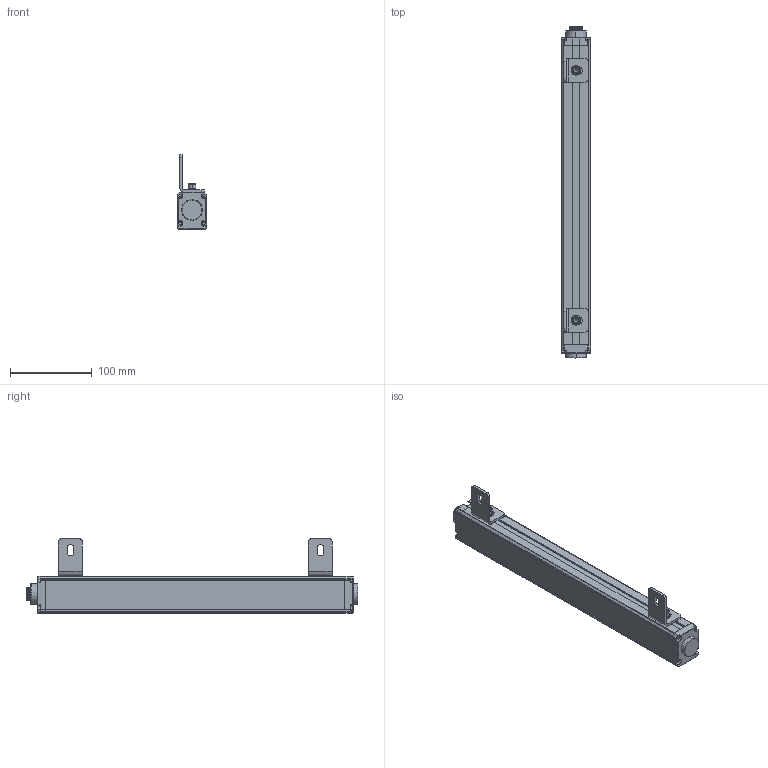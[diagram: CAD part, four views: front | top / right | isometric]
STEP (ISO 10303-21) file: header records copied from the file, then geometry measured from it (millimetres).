
FILE_DESCRIPTION((''),'2;1');
FILE_NAME('ESCL-00_ASM','2021-07-17T12:15:53',('18720616900'),(''),'CREO PARAMETRIC BY PTC INC, 2019010','CREO PARAMETRIC BY PTC INC, 2019010','');
FILE_SCHEMA(('CONFIG_CONTROL_DESIGN'));
Products named in the file (12): ESCL-00; ESCL-3-SOLID1000; ESCL-4-SOLID1000; HKCT1_-4-SOLID1; L10001; M6-8--0001; M6-1--00; M6-1-00; 00; M6-80001_ASM; L1--0001_ASM; ESCL-00_ASM
Assembly tree (12 placements, depth 4):
  ESCL-00_ASM
    ESCL-00
    ESCL-3-SOLID1000
    ESCL-4-SOLID1000
    HKCT1_-4-SOLID1
    L1--0001_ASM  x2
      L10001
      M6-80001_ASM
        M6-8--0001
        M6-1--00
        M6-1-00
        00
Bounding box: 36.1 x 405.1 x 91.11 mm (x, y, z)
Volume: 574188.3 mm3; surface area: 99555.8 mm2
Topology: 14 solids, 14 shells, 625 faces, 1645 edges, 1070 vertices
Faces by surface type: plane 226, cylinder 208, cone 78, bspline 66, torus 47
Entity records: 76177 total; most frequent: CARTESIAN_POINT 63991, ORIENTED_EDGE 2664, DIRECTION 2275, EDGE_CURVE 1332, VERTEX_POINT 872, AXIS2_PLACEMENT_3D 816, VECTOR 643, LINE 643
